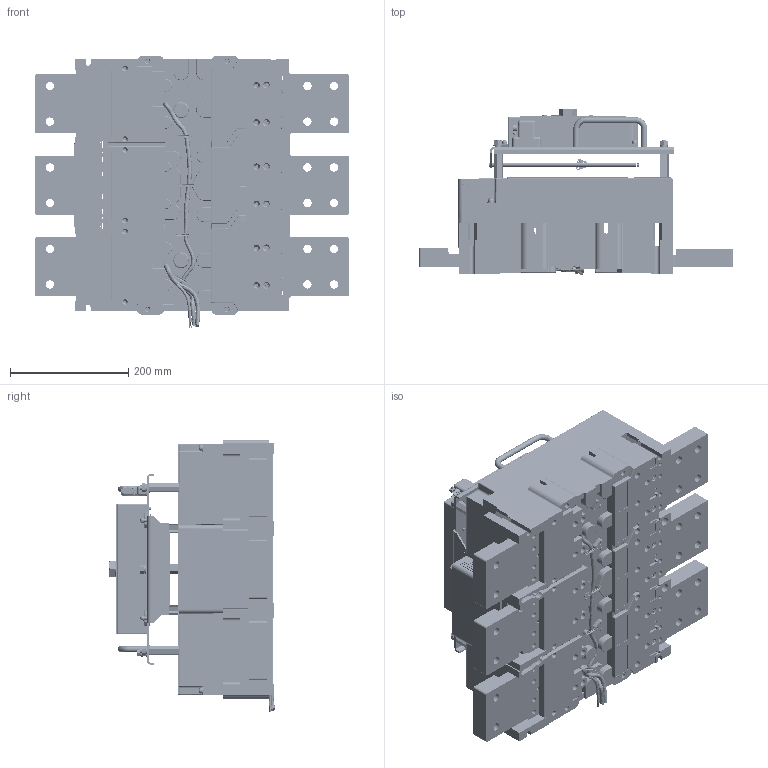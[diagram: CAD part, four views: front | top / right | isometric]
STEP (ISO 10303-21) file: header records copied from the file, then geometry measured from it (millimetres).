
FILE_DESCRIPTION (( 'STEP AP203' ), '1' );
FILE_NAME ('ÂÀ55-43 (2000À) ñ ÝÌÏ.STEP', '2014-12-04T07:28:44', ( 'admin' ), ( '' ), 'SwSTEP 2.0', 'SolidWorks 2007', '' );
FILE_SCHEMA (( 'CONFIG_CONTROL_DESIGN' ));
Products named in the file (1): ÂÀ55-43 (2000À) ñ ÝÌÏ
Bounding box: 530 x 280.47 x 460.79 mm (x, y, z)
Surface area: 1832983.1 mm2 (no closed solid volume)
Topology: 0 solids, 879 shells, 4260 faces, 20954 edges, 17181 vertices
Faces by surface type: plane 2223, cylinder 1358, bspline 351, torus 156, cone 148, sphere 24
Entity records: 247044 total; most frequent: CARTESIAN_POINT 88774, DIRECTION 30549, ORIENTED_EDGE 27508, EDGE_CURVE 20920, VERTEX_POINT 17181, VECTOR 13125, LINE 13125, AXIS2_PLACEMENT_3D 8712
